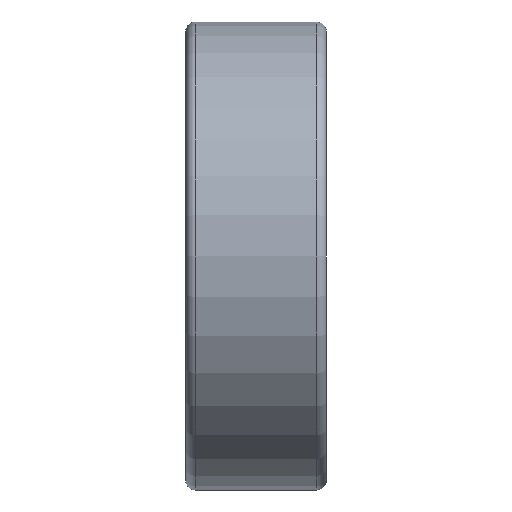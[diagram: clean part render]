
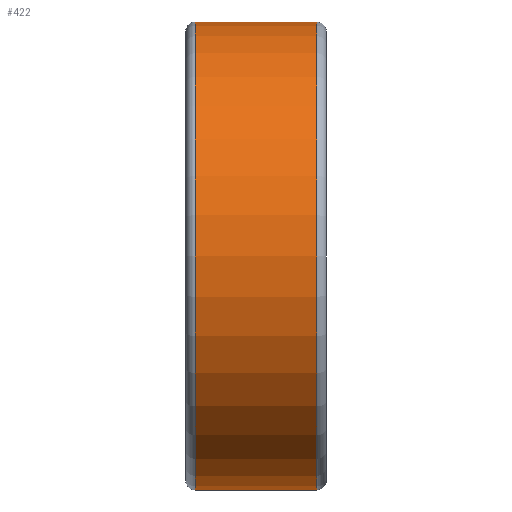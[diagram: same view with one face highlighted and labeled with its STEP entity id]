
A CAD part, front view. The second image highlights one B-rep face of the part: STEP entity #422.
In plain terms, the highlighted cylindrical face has radius 15 mm (diameter 30 mm), a full revolution.
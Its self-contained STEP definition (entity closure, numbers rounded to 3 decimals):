
#143=CYLINDRICAL_SURFACE('',#638,15.);
#211=EDGE_LOOP('',(#291));
#212=EDGE_LOOP('',(#292));
#291=ORIENTED_EDGE('',*,*,#339,.F.);
#292=ORIENTED_EDGE('',*,*,#337,.T.);
#337=EDGE_CURVE('',#581,#581,#357,.T.);
#339=EDGE_CURVE('',#583,#583,#359,.T.);
#357=CIRCLE('',#634,15.);
#359=CIRCLE('',#637,15.);
#422=ADVANCED_FACE('',(#515,#516),#143,.T.);
#515=FACE_BOUND('',#211,.T.);
#516=FACE_BOUND('',#212,.T.);
#581=VERTEX_POINT('',#2018);
#583=VERTEX_POINT('',#2023);
#634=AXIS2_PLACEMENT_3D('',#2017,#738,#739);
#637=AXIS2_PLACEMENT_3D('',#2022,#744,#745);
#638=AXIS2_PLACEMENT_3D('',#2024,#746,#747);
#738=DIRECTION('',(1.,0.,0.));
#739=DIRECTION('',(0.,0.,-1.));
#744=DIRECTION('',(1.,0.,0.));
#745=DIRECTION('',(0.,0.,-1.));
#746=DIRECTION('',(1.,0.,0.));
#747=DIRECTION('',(0.,0.,-1.));
#2017=CARTESIAN_POINT('',(-3.9,0.,0.));
#2018=CARTESIAN_POINT('',(-3.9,0.,-15.));
#2022=CARTESIAN_POINT('',(3.9,0.,0.));
#2023=CARTESIAN_POINT('',(3.9,0.,-15.));
#2024=CARTESIAN_POINT('',(-3.9,0.,0.));
